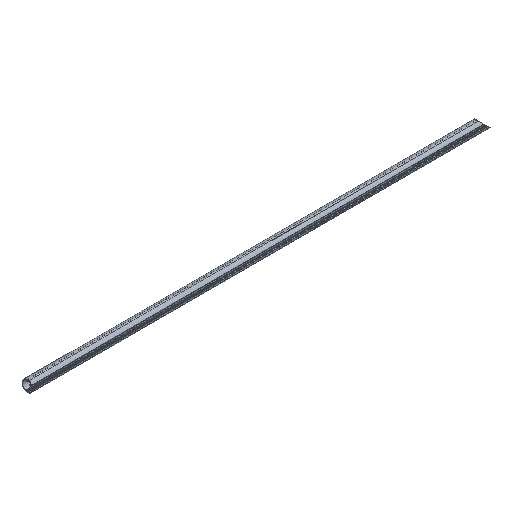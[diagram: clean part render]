
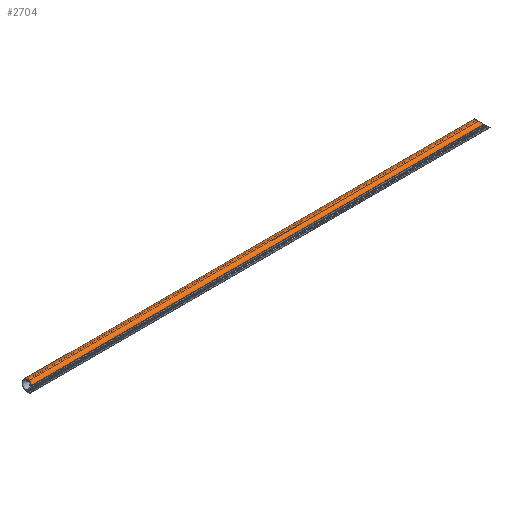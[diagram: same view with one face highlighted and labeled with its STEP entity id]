
A CAD part, isometric view. The second image highlights one B-rep face of the part: STEP entity #2704.
In plain terms, the highlighted cylindrical face has radius 25 mm (diameter 50 mm), a partial arc.
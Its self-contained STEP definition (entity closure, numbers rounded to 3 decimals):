
#1296=ELLIPSE('',#2572,35.355,25.);
#1326=CIRCLE('',#2571,25.);
#1356=ORIENTED_EDGE('',*,*,#1824,.F.);
#1357=ORIENTED_EDGE('',*,*,#1825,.T.);
#1358=ORIENTED_EDGE('',*,*,#1826,.T.);
#1359=ORIENTED_EDGE('',*,*,#1827,.T.);
#1608=VECTOR('',#2044,1.);
#1609=VECTOR('',#2047,1.);
#1674=LINE('',#2319,#1608);
#1675=LINE('',#2323,#1609);
#1740=VERTEX_POINT('',#2317);
#1741=VERTEX_POINT('',#2318);
#1742=VERTEX_POINT('',#2320);
#1743=VERTEX_POINT('',#2322);
#1824=EDGE_CURVE('',#1740,#1741,#1674,.T.);
#1825=EDGE_CURVE('',#1740,#1742,#1326,.T.);
#1826=EDGE_CURVE('',#1742,#1743,#1675,.T.);
#1827=EDGE_CURVE('',#1743,#1741,#1296,.T.);
#1950=EDGE_LOOP('',(#1356,#1357,#1358,#1359));
#1996=FACE_BOUND('',#1950,.T.);
#2042=DIRECTION('',(1.,0.,0.));
#2043=DIRECTION('',(0.,-0.86,-0.51));
#2044=DIRECTION('',(2080.257,0.,0.));
#2045=DIRECTION('',(1.,0.,0.));
#2046=DIRECTION('',(0.,-21.5,-12.757));
#2047=DIRECTION('',(2054.743,0.,0.));
#2048=DIRECTION('',(-0.707,0.,-0.707));
#2049=DIRECTION('',(-0.707,0.,0.707));
#2316=CARTESIAN_POINT('',(0.,-25.,25.));
#2317=CARTESIAN_POINT('',(0.,-46.5,12.243));
#2318=CARTESIAN_POINT('',(2080.257,-46.5,12.243));
#2319=CARTESIAN_POINT('',(0.,-46.5,12.243));
#2320=CARTESIAN_POINT('',(0.,-46.5,37.757));
#2321=CARTESIAN_POINT('',(0.,-25.,25.));
#2322=CARTESIAN_POINT('',(2054.743,-46.5,37.757));
#2323=CARTESIAN_POINT('',(0.,-46.5,37.757));
#2324=CARTESIAN_POINT('',(2067.5,-25.,25.));
#2570=AXIS2_PLACEMENT_3D('',#2316,#2042,#2043);
#2571=AXIS2_PLACEMENT_3D('',#2321,#2045,#2046);
#2572=AXIS2_PLACEMENT_3D('',#2324,#2048,#2049);
#2674=CYLINDRICAL_SURFACE('',#2570,25.);
#2704=ADVANCED_FACE('',(#1996),#2674,.T.);
